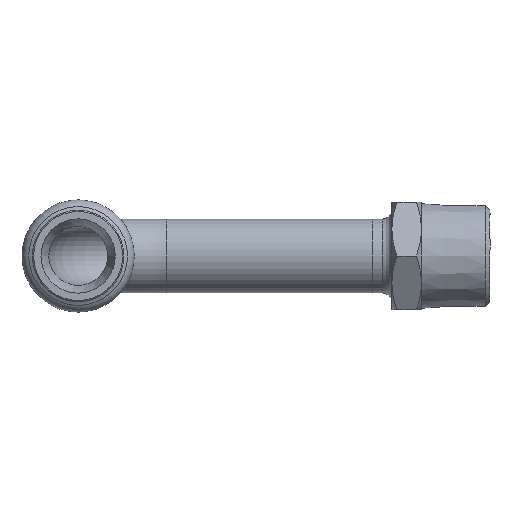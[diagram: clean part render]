
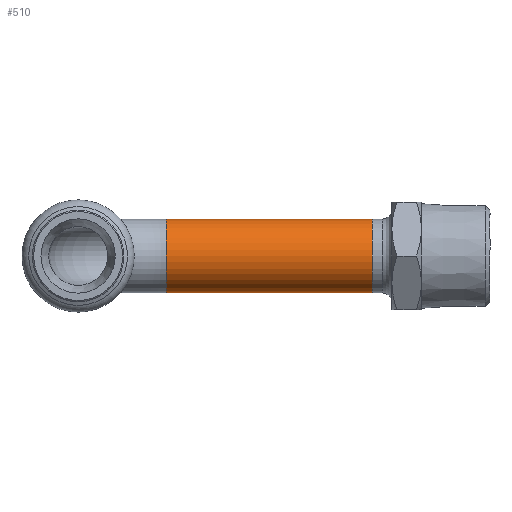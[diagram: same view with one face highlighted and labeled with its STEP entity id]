
A CAD part, left-side view. The second image highlights one B-rep face of the part: STEP entity #510.
In plain terms, the highlighted cylindrical face has radius 7.5 mm (diameter 15 mm), a full revolution.
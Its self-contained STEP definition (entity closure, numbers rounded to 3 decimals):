
#483=CARTESIAN_POINT('',(0.,-18.,0.0));
#484=DIRECTION('',(0.,-1.0,0.0));
#485=DIRECTION('',(0.0,0.0,1.0));
#486=AXIS2_PLACEMENT_3D('',#483,#484,#485);
#487=CYLINDRICAL_SURFACE('',#486,7.5);
#488=CARTESIAN_POINT('',(0.,-60.0,-7.5));
#489=VERTEX_POINT('',#488);
#490=CARTESIAN_POINT('',(0.,-60.,0.0));
#491=DIRECTION('',(0.0,1.0,0.0));
#492=DIRECTION('',(0.0,0.0,1.0));
#493=AXIS2_PLACEMENT_3D('',#490,#491,#492);
#494=CIRCLE('',#493,7.5);
#495=EDGE_CURVE('',#489,#489,#494,.T.);
#496=ORIENTED_EDGE('',*,*,#495,.T.);
#497=EDGE_LOOP('',(#496));
#498=FACE_OUTER_BOUND('',#497,.T.);
#499=CARTESIAN_POINT('',(0.,-18.,-7.5));
#500=VERTEX_POINT('',#499);
#501=CARTESIAN_POINT('',(0.,-18.,0.0));
#502=DIRECTION('',(0.0,1.0,0.0));
#503=DIRECTION('',(0.0,0.0,1.0));
#504=AXIS2_PLACEMENT_3D('',#501,#502,#503);
#505=CIRCLE('',#504,7.5);
#506=EDGE_CURVE('',#500,#500,#505,.T.);
#507=ORIENTED_EDGE('',*,*,#506,.F.);
#508=EDGE_LOOP('',(#507));
#509=FACE_BOUND('',#508,.T.);
#510=ADVANCED_FACE('',(#498,#509),#487,.T.);
